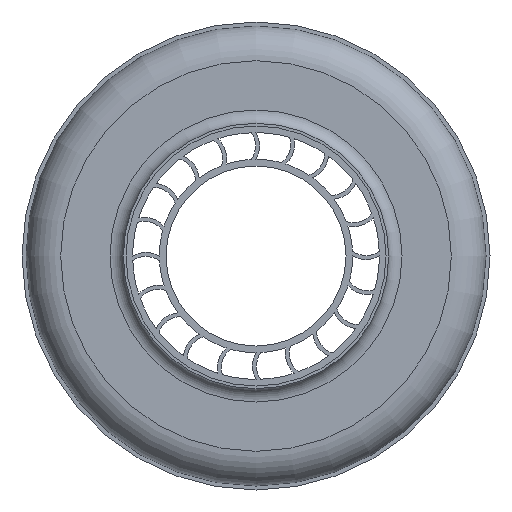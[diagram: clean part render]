
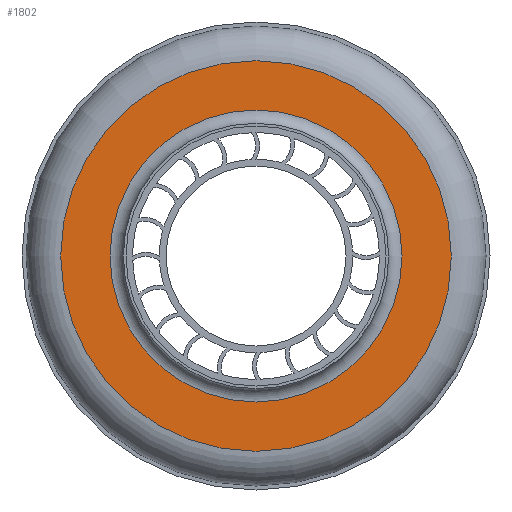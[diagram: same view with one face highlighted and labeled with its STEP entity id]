
A CAD part, left-side view. The second image highlights one B-rep face of the part: STEP entity #1802.
In plain terms, the highlighted planar face has unit normal (-1, 0, 0).
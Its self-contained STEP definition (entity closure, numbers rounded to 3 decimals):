
#187=PLANE('',#1924);
#198=FACE_BOUND('',#376,.T.);
#264=FACE_OUTER_BOUND('',#375,.T.);
#375=EDGE_LOOP('',(#1185));
#376=EDGE_LOOP('',(#1186));
#542=CIRCLE('',#1922,109.5);
#544=CIRCLE('',#1925,146.5);
#728=VERTEX_POINT('',#2886);
#730=VERTEX_POINT('',#2891);
#914=EDGE_CURVE('',#728,#728,#542,.T.);
#916=EDGE_CURVE('',#730,#730,#544,.T.);
#1185=ORIENTED_EDGE('',*,*,#916,.F.);
#1186=ORIENTED_EDGE('',*,*,#914,.T.);
#1802=ADVANCED_FACE('',(#264,#198),#187,.T.);
#1922=AXIS2_PLACEMENT_3D('',#2887,#2226,#2227);
#1924=AXIS2_PLACEMENT_3D('',#2890,#2230,#2231);
#1925=AXIS2_PLACEMENT_3D('',#2892,#2232,#2233);
#2226=DIRECTION('center_axis',(1.,0.,0.));
#2227=DIRECTION('ref_axis',(0.,0.,-1.));
#2230=DIRECTION('center_axis',(-1.,0.,0.));
#2231=DIRECTION('ref_axis',(0.,0.,1.));
#2232=DIRECTION('center_axis',(1.,0.,0.));
#2233=DIRECTION('ref_axis',(0.,0.,-1.));
#2886=CARTESIAN_POINT('',(33.,109.5,0.));
#2887=CARTESIAN_POINT('Origin',(33.,0.,0.));
#2890=CARTESIAN_POINT('Origin',(33.,146.5,0.));
#2891=CARTESIAN_POINT('',(33.,146.5,0.));
#2892=CARTESIAN_POINT('Origin',(33.,0.,0.));
